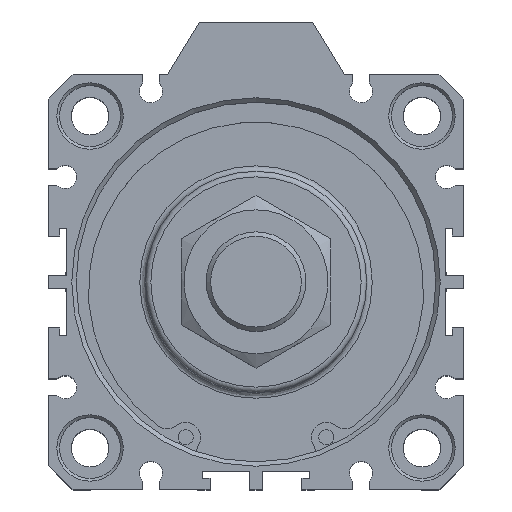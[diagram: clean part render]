
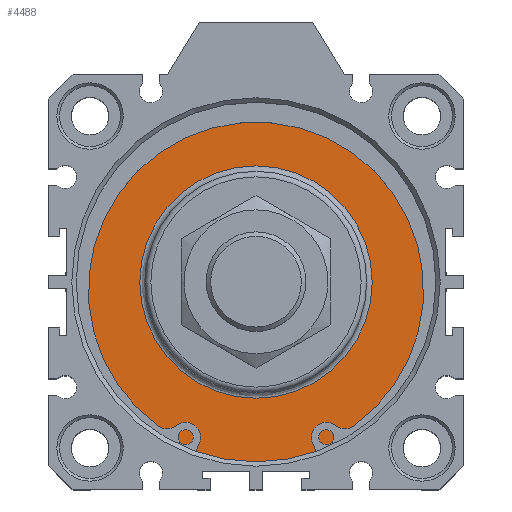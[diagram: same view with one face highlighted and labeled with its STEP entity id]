
A CAD part, top view. The second image highlights one B-rep face of the part: STEP entity #4488.
In plain terms, the highlighted planar face has unit normal (0, 0, 1).
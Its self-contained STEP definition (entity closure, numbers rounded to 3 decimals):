
#4437=CARTESIAN_POINT('',(2.99,22.555,47.3));
#4438=VERTEX_POINT('',#4437);
#4439=CARTESIAN_POINT('',(2.99,1.555,47.3));
#4440=DIRECTION('',(0.0,0.0,1.0));
#4441=DIRECTION('',(0.0,-1.0,0.0));
#4442=AXIS2_PLACEMENT_3D('',#4439,#4440,#4441);
#4443=CIRCLE('',#4442,21.0);
#4444=EDGE_CURVE('',#4438,#4438,#4443,.T.);
#4469=CARTESIAN_POINT('',(2.99,27.805,47.3));
#4470=DIRECTION('',(0.0,0.0,1.0));
#4471=DIRECTION('',(1.0,0.0,0.0));
#4472=AXIS2_PLACEMENT_3D('',#4469,#4470,#4471);
#4473=PLANE('',#4472);
#4474=CARTESIAN_POINT('',(2.99,34.055,47.3));
#4475=VERTEX_POINT('',#4474);
#4476=CARTESIAN_POINT('',(2.99,1.555,47.3));
#4477=DIRECTION('',(0.0,0.0,-1.0));
#4478=DIRECTION('',(0.0,1.0,0.0));
#4479=AXIS2_PLACEMENT_3D('',#4476,#4477,#4478);
#4480=CIRCLE('',#4479,32.5);
#4481=EDGE_CURVE('',#4475,#4475,#4480,.T.);
#4482=ORIENTED_EDGE('',*,*,#4481,.F.);
#4483=EDGE_LOOP('',(#4482));
#4484=FACE_OUTER_BOUND('',#4483,.T.);
#4485=ORIENTED_EDGE('',*,*,#4444,.F.);
#4486=EDGE_LOOP('',(#4485));
#4487=FACE_BOUND('',#4486,.T.);
#4488=ADVANCED_FACE('',(#4484,#4487),#4473,.T.);
